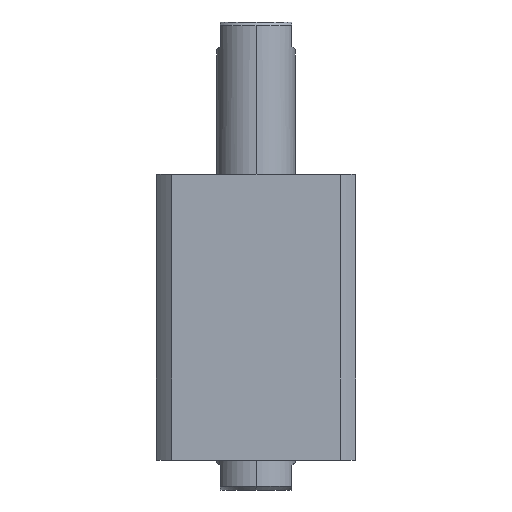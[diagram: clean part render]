
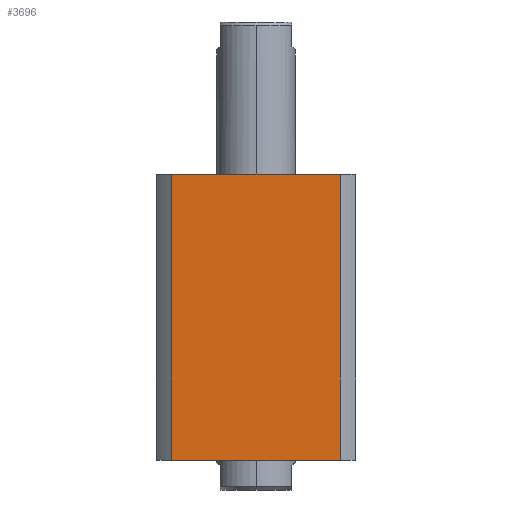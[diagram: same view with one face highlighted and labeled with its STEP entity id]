
A CAD part, front view. The second image highlights one B-rep face of the part: STEP entity #3696.
In plain terms, the highlighted planar face has unit normal (0, -1, 0) as drawn and (-1, 0, 0) by its records, which use the part's own axes.
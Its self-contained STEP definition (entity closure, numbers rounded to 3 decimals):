
#290 = LINE ( 'NONE', #8782, #6367 ) ;
#356 = PLANE ( 'NONE',  #14533 ) ;
#604 = CARTESIAN_POINT ( 'NONE',  ( -57., -47.971, 163. ) ) ;
#696 = FACE_OUTER_BOUND ( 'NONE', #3341, .T. ) ;
#1549 = CARTESIAN_POINT ( 'NONE',  ( -57., 57., 163. ) ) ;
#1572 = DIRECTION ( 'NONE',  ( 1., 0., 0. ) ) ;
#1659 = ORIENTED_EDGE ( 'NONE', *, *, #6885, .F. ) ;
#2391 = CARTESIAN_POINT ( 'NONE',  ( -57., 47.971, 0. ) ) ;
#2620 = VERTEX_POINT ( 'NONE', #2391 ) ;
#2759 = LINE ( 'NONE', #7499, #12057 ) ;
#3303 = LINE ( 'NONE', #1549, #10145 ) ;
#3341 = EDGE_LOOP ( 'NONE', ( #1659, #13563, #10455, #4137 ) ) ;
#3696 = ADVANCED_FACE ( 'NONE', ( #696 ), #356, .F. ) ;
#3989 = DIRECTION ( 'NONE',  ( 0., -1., 0. ) ) ;
#4137 = ORIENTED_EDGE ( 'NONE', *, *, #8767, .F. ) ;
#4523 = CARTESIAN_POINT ( 'NONE',  ( -57., 47.971, 163. ) ) ;
#4989 = EDGE_CURVE ( 'NONE', #8960, #5753, #14916, .T. ) ;
#5753 = VERTEX_POINT ( 'NONE', #6982 ) ;
#6367 = VECTOR ( 'NONE', #11211, 1000. ) ;
#6885 = EDGE_CURVE ( 'NONE', #2620, #10298, #290, .T. ) ;
#6982 = CARTESIAN_POINT ( 'NONE',  ( -57., -47.971, 0. ) ) ;
#7499 = CARTESIAN_POINT ( 'NONE',  ( -57., 57., 0. ) ) ;
#8767 = EDGE_CURVE ( 'NONE', #10298, #8960, #3303, .T. ) ;
#8782 = CARTESIAN_POINT ( 'NONE',  ( -57., 47.971, -137. ) ) ;
#8960 = VERTEX_POINT ( 'NONE', #604 ) ;
#9523 = CARTESIAN_POINT ( 'NONE',  ( -57., -47.971, -137. ) ) ;
#9934 = DIRECTION ( 'NONE',  ( 0., -1., 0. ) ) ;
#10059 = DIRECTION ( 'NONE',  ( 0., 1., 0. ) ) ;
#10145 = VECTOR ( 'NONE', #3989, 1000. ) ;
#10298 = VERTEX_POINT ( 'NONE', #4523 ) ;
#10332 = DIRECTION ( 'NONE',  ( 0., 0., -1. ) ) ;
#10455 = ORIENTED_EDGE ( 'NONE', *, *, #4989, .F. ) ;
#11211 = DIRECTION ( 'NONE',  ( 0., 0., 1. ) ) ;
#11679 = VECTOR ( 'NONE', #10332, 1000. ) ;
#12057 = VECTOR ( 'NONE', #9934, 1000. ) ;
#13563 = ORIENTED_EDGE ( 'NONE', *, *, #15385, .T. ) ;
#14533 = AXIS2_PLACEMENT_3D ( 'NONE', #14897, #1572, #10059 ) ;
#14897 = CARTESIAN_POINT ( 'NONE',  ( -57., 57., 163. ) ) ;
#14916 = LINE ( 'NONE', #9523, #11679 ) ;
#15385 = EDGE_CURVE ( 'NONE', #2620, #5753, #2759, .T. ) ;
